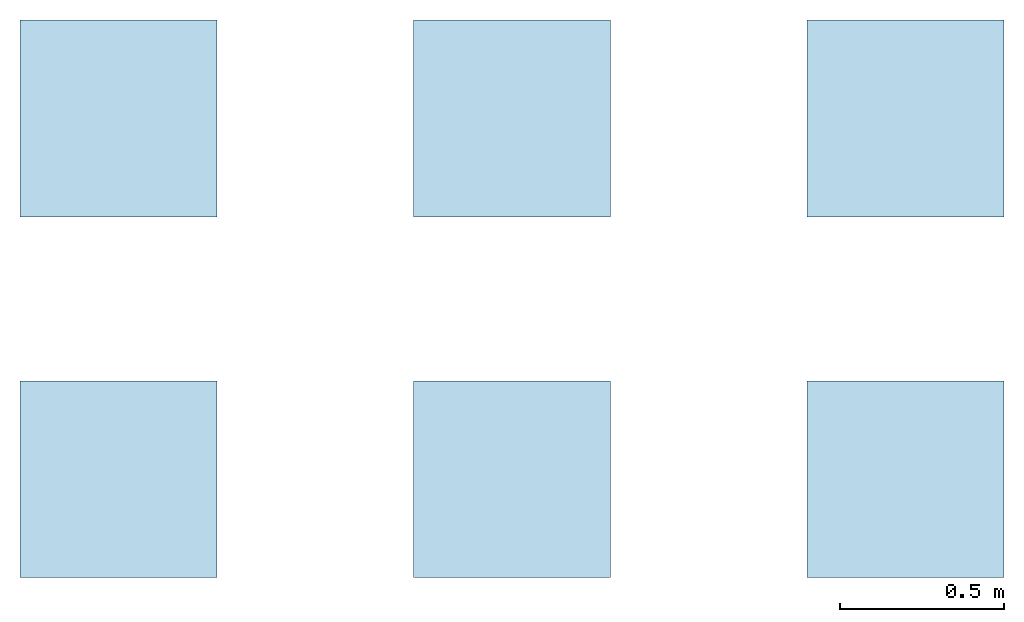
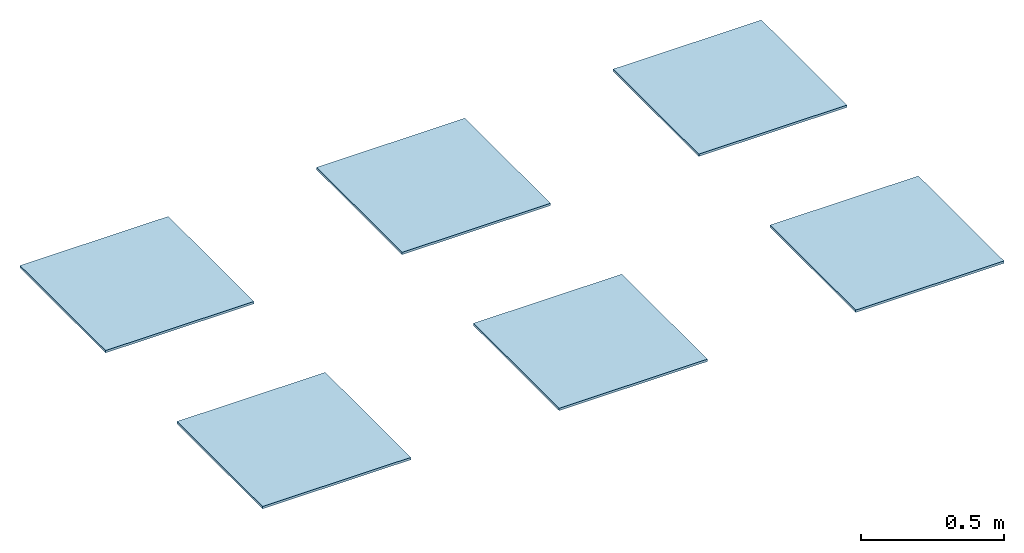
# One storey: 6 slabs.
"""IFC2X3 building model written with IfcOpenShell, lengths in metres."""

from ifc_helpers import new_model, entity, si_unit, converted_unit, derived_unit, direction, frame, origin, origin_2d_with_axis, place, context, subcontext, project, spatial, rectangle, extrude, material, layer, layer_set, layer_usage, element, save


model = new_model("IFC2X3")

# Units and contexts
model_context = context("Model", 3, precision=1e-05, world=origin(), true_north=direction((6.12303176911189e-17, 1.0)))
body_context = subcontext(model_context, "Body", "Model", "MODEL_VIEW")
ifc_project = project(units=[si_unit("LENGTHUNIT", "METRE"), si_unit("AREAUNIT", "SQUARE_METRE"), si_unit("VOLUMEUNIT", "CUBIC_METRE"), converted_unit("PLANEANGLEUNIT", "DEGREE", entity("IfcRatioMeasure", 0.0174532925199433), si_unit("PLANEANGLEUNIT", "RADIAN"), dimensions=[0, 0, 0, 0, 0, 0, 0]), si_unit("MASSUNIT", "GRAM", prefix="KILO"), si_unit("TIMEUNIT", "SECOND"), si_unit("FREQUENCYUNIT", "HERTZ"), si_unit("THERMODYNAMICTEMPERATUREUNIT", "DEGREE_CELSIUS"), derived_unit("THERMALTRANSMITTANCEUNIT", [(si_unit("MASSUNIT", "GRAM", prefix="KILO"), 1), (si_unit("THERMODYNAMICTEMPERATUREUNIT", "KELVIN"), -1), (si_unit("TIMEUNIT", "SECOND"), -3)]), derived_unit("VOLUMETRICFLOWRATEUNIT", [(si_unit("LENGTHUNIT", "METRE"), 3), (si_unit("TIMEUNIT", "SECOND"), -1)]), si_unit("ELECTRICCURRENTUNIT", "AMPERE"), si_unit("ELECTRICVOLTAGEUNIT", "VOLT"), si_unit("POWERUNIT", "WATT"), si_unit("FORCEUNIT", "NEWTON", prefix="KILO"), si_unit("ILLUMINANCEUNIT", "LUX"), si_unit("LUMINOUSFLUXUNIT", "LUMEN"), si_unit("LUMINOUSINTENSITYUNIT", "CANDELA"), derived_unit("USERDEFINED", [(si_unit("MASSUNIT", "GRAM", prefix="KILO"), -1), (si_unit("LENGTHUNIT", "METRE"), -2), (si_unit("TIMEUNIT", "SECOND"), 3), (si_unit("LUMINOUSFLUXUNIT", "LUMEN"), 1)]), derived_unit("LINEARVELOCITYUNIT", [(si_unit("LENGTHUNIT", "METRE"), 1), (si_unit("TIMEUNIT", "SECOND"), -1)]), si_unit("PRESSUREUNIT", "PASCAL"), derived_unit("USERDEFINED", [(si_unit("LENGTHUNIT", "METRE"), -2), (si_unit("MASSUNIT", "GRAM", prefix="KILO"), 1), (si_unit("TIMEUNIT", "SECOND"), -2)])], contexts=[model_context])

# Site, building, storey
site_placement = place(None, origin())
site = spatial("IfcSite", under=ifc_project, at=site_placement, Name="Default", CompositionType="ELEMENT")
building_placement = place(site_placement, origin())
building = spatial("IfcBuilding", under=site, at=building_placement, CompositionType="ELEMENT")
storey_placement = place(building_placement, origin())
storey = spatial("IfcBuildingStorey", under=building, at=storey_placement, Name="LAVERTON FLOOR TILES", CompositionType="ELEMENT", Elevation=0.0)

# Slabs
ifc_material_1 = material(Name="VIVES LAVERTON ARENA 60x60")
ifc_layer_1 = layer(ifc_material_1, 0.01)
ifc_layer_set_1 = layer_set([ifc_layer_1], Name="Suelo:VIVES LAVERTON ARENA 60x60")
ifc_layer_usage_1 = layer_usage(ifc_layer_set_1, "AXIS3", "POSITIVE", 0.0)
slab_1_placement = place(storey_placement, origin())
element("IfcSlab", 1, at=slab_1_placement, inside=storey, material=ifc_layer_usage_1, Name="Suelo:VIVES LAVERTON ARENA 60x60", ObjectType="Suelo:VIVES LAVERTON ARENA 60x60", PredefinedType="FLOOR", context=body_context, shape_type="SweptSolid", body=[
    extrude(rectangle(XDim=0.6, YDim=0.6, at=origin_2d_with_axis()), frame((-1.89767402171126, -3.41495505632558, 0.0), z_axis=(0.0, 0.0, -1.0), x_axis=(0.0, 1.0, 0.0)), (0.0, 0.0, 1.0), 0.01),
])
ifc_material_2 = material(Name="VIVES LAVERTON NIEVE 60x60")
ifc_layer_2 = layer(ifc_material_2, 0.01)
ifc_layer_set_2 = layer_set([ifc_layer_2], Name="Suelo:VIVES LAVERTON NIEVE 60x60")
ifc_layer_usage_2 = layer_usage(ifc_layer_set_2, "AXIS3", "POSITIVE", 0.0)
slab_2_placement = place(storey_placement, origin())
element("IfcSlab", 2, at=slab_2_placement, inside=storey, material=ifc_layer_usage_2, Name="Suelo:VIVES LAVERTON NIEVE 60x60", ObjectType="Suelo:VIVES LAVERTON NIEVE 60x60", PredefinedType="FLOOR", context=body_context, shape_type="SweptSolid", body=[
    extrude(rectangle(XDim=0.6, YDim=0.6, at=origin_2d_with_axis()), frame((-0.697674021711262, -3.41495505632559, 0.0), z_axis=(0.0, 0.0, -1.0), x_axis=(0.0, 1.0, 0.0)), (0.0, 0.0, 1.0), 0.01),
])
ifc_material_3 = material(Name="VIVES LAVERTON NATURAL 60x60")
ifc_layer_3 = layer(ifc_material_3, 0.01)
ifc_layer_set_3 = layer_set([ifc_layer_3], Name="Suelo:VIVES LAVERTON NATURAL 60x60")
ifc_layer_usage_3 = layer_usage(ifc_layer_set_3, "AXIS3", "POSITIVE", 0.0)
slab_3_placement = place(storey_placement, origin())
element("IfcSlab", 3, at=slab_3_placement, inside=storey, material=ifc_layer_usage_3, Name="Suelo:VIVES LAVERTON NATURAL 60x60", ObjectType="Suelo:VIVES LAVERTON NATURAL 60x60", PredefinedType="FLOOR", context=body_context, shape_type="SweptSolid", body=[
    extrude(rectangle(XDim=0.6, YDim=0.6, at=origin_2d_with_axis()), frame((0.502325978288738, -3.41495505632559, 0.0), z_axis=(0.0, 0.0, -1.0), x_axis=(0.0, 1.0, 0.0)), (0.0, 0.0, 1.0), 0.01),
])
ifc_material_4 = material(Name="VIVES LAVERTON BEIGE 60x60")
ifc_layer_4 = layer(ifc_material_4, 0.01)
ifc_layer_set_4 = layer_set([ifc_layer_4], Name="Suelo:VIVES LAVERTON BEIGE 60x60")
ifc_layer_usage_4 = layer_usage(ifc_layer_set_4, "AXIS3", "POSITIVE", 0.0)
slab_4_placement = place(storey_placement, origin())
element("IfcSlab", 4, at=slab_4_placement, inside=storey, material=ifc_layer_usage_4, Name="Suelo:VIVES LAVERTON BEIGE 60x60", ObjectType="Suelo:VIVES LAVERTON BEIGE 60x60", PredefinedType="FLOOR", context=body_context, shape_type="SweptSolid", body=[
    extrude(rectangle(XDim=0.6, YDim=0.6, at=origin_2d_with_axis()), frame((-1.89767402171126, -4.51495505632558, 0.0), z_axis=(0.0, 0.0, -1.0), x_axis=(0.0, 1.0, 0.0)), (0.0, 0.0, 1.0), 0.01),
])
ifc_material_5 = material(Name="VIVES LAVERTON GRIS 60x60")
ifc_layer_5 = layer(ifc_material_5, 0.01)
ifc_layer_set_5 = layer_set([ifc_layer_5], Name="Suelo:VIVES LAVERTON GRIS 60x60")
ifc_layer_usage_5 = layer_usage(ifc_layer_set_5, "AXIS3", "POSITIVE", 0.0)
slab_5_placement = place(storey_placement, origin())
element("IfcSlab", 5, at=slab_5_placement, inside=storey, material=ifc_layer_usage_5, Name="Suelo:VIVES LAVERTON GRIS 60x60", ObjectType="Suelo:VIVES LAVERTON GRIS 60x60", PredefinedType="FLOOR", context=body_context, shape_type="SweptSolid", body=[
    extrude(rectangle(XDim=0.6, YDim=0.6, at=origin_2d_with_axis()), frame((-0.697674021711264, -4.51495505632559, 0.0), z_axis=(0.0, 0.0, -1.0), x_axis=(0.0, 1.0, 0.0)), (0.0, 0.0, 1.0), 0.01),
])
ifc_material_6 = material(Name="VIVES LAVERTON GRAFITO 60x60")
ifc_layer_6 = layer(ifc_material_6, 0.01)
ifc_layer_set_6 = layer_set([ifc_layer_6], Name="Suelo:VIVES LAVERTON GRAFITO 60x60")
ifc_layer_usage_6 = layer_usage(ifc_layer_set_6, "AXIS3", "POSITIVE", 0.0)
slab_6_placement = place(storey_placement, origin())
element("IfcSlab", 6, at=slab_6_placement, inside=storey, material=ifc_layer_usage_6, Name="Suelo:VIVES LAVERTON GRAFITO 60x60", ObjectType="Suelo:VIVES LAVERTON GRAFITO 60x60", PredefinedType="FLOOR", context=body_context, shape_type="SweptSolid", body=[
    extrude(rectangle(XDim=0.6, YDim=0.6, at=origin_2d_with_axis()), frame((0.502325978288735, -4.51495505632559, 0.0), z_axis=(0.0, 0.0, -1.0), x_axis=(0.0, 1.0, 0.0)), (0.0, 0.0, 1.0), 0.01),
])

save(model, "model.ifc")
